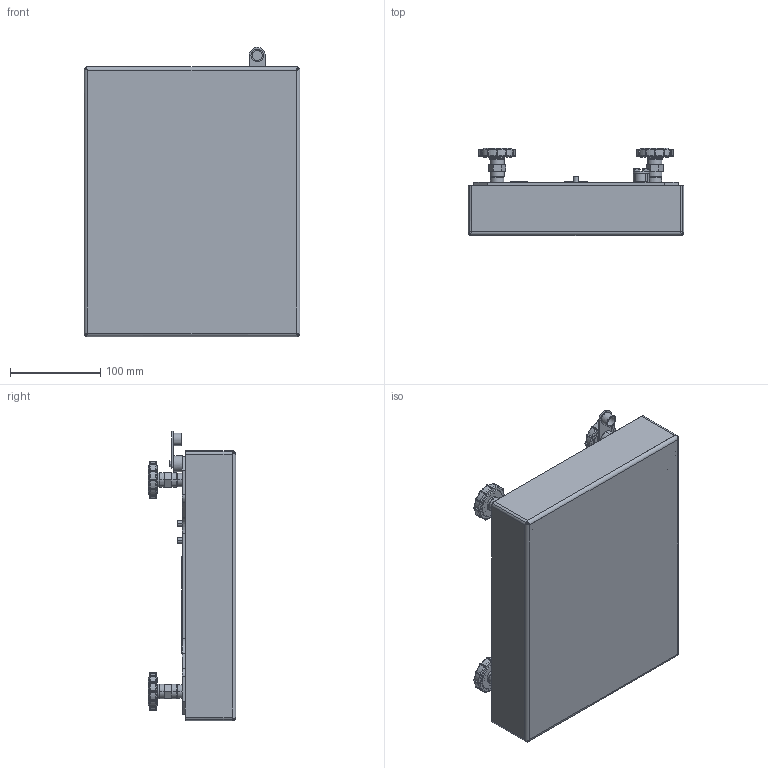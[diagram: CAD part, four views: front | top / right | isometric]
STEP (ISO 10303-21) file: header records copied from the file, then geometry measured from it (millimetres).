
FILE_DESCRIPTION((''),'2;1');
FILE_NAME('PLATFORM_PBA43X_A_HYGIENIC','2022-03-18T09:21:52',('fu-34'),(''),'CREO PARAMETRIC BY PTC INC, 2018260','CREO PARAMETRIC BY PTC INC, 2018260','');
FILE_SCHEMA(('CONFIG_CONTROL_DESIGN'));
Products named in the file (1): PLATFORM_PBA43X_A_HYGIENIC
Bounding box: 239.9 x 97.2 x 321.45 mm (x, y, z)
Volume: 776345.5 mm3; surface area: 531050.5 mm2
Topology: 5 solids, 58 shells, 1899 faces, 4468 edges, 2711 vertices
Faces by surface type: plane 690, cylinder 653, cone 390, torus 144, bspline 18, sphere 4
Entity records: 56892 total; most frequent: CARTESIAN_POINT 13454, DIRECTION 9318, ORIENTED_EDGE 8900, EDGE_CURVE 4450, AXIS2_PLACEMENT_3D 3759, VERTEX_POINT 2711, EDGE_LOOP 2051, FACE_OUTER_BOUND 1899
